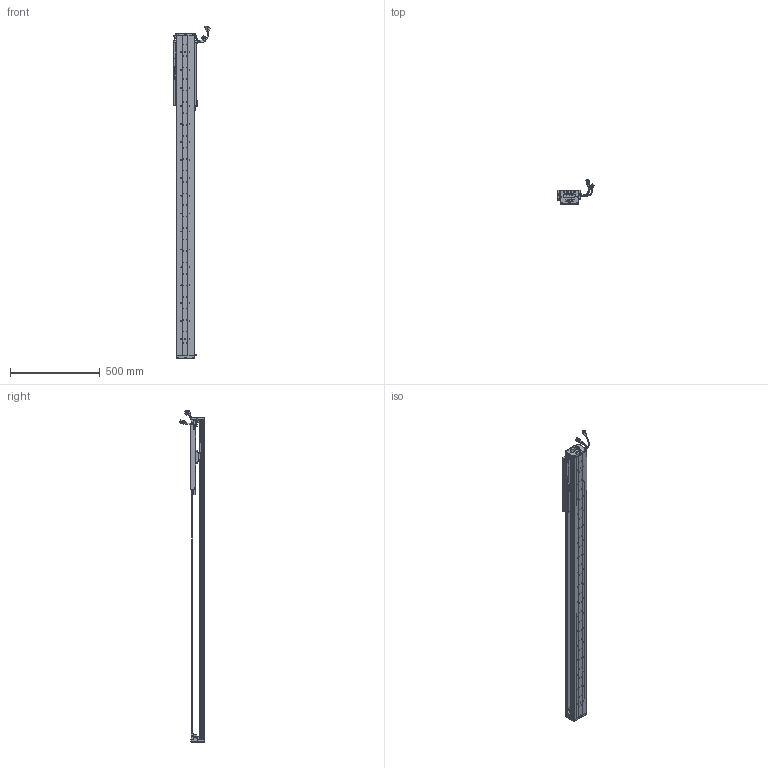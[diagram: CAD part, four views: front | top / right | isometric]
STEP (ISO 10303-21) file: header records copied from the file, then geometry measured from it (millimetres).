
FILE_DESCRIPTION (( 'STEP AP203' ), '1' );
FILE_NAME ('Z5-RY100D-1-L500-B-K.SLDASM_1350.step', '2021-05-17T03:33:26', ( '盈信电脑' ), ( '东莞市道滘镇水果街19号' ), 'SwSTEP 2.0', 'SolidWorks 2016', '' );
FILE_SCHEMA (( 'CONFIG_CONTROL_DESIGN' ));
Length unit declared in the file: millimetre
Products named in the file (36): SCREW-M1.7; Z5-RY100D-1-L500-B-K.SLDASM_1350; SEAL-Part-1; 140雄赽晤鎢ん堤盄; PBU_SHEET; SEAL; SHIELDPLATE; LABEL; Z-RY100D詩湍狟揤裔; PSLH080_PSLF2; 140蚥薯蝶輸; SCREW-M1.6-1; Z5-RY100D-500-倰第菁釱_1350; Z5-RY100-L500詩湍90mm遵_1350; 覜茼ん672; SCREW-M1.7-1; Z-RY100D覜茼んえ; HARNESS-Part-1; 080黍杅芛假蚾釱21遴; COVER-Part-1; SCREW-M1.6; COVER; HARNESS; Z-RY100D詩湍奻揤裔; SCALE-Part-1; HOLDER0; LABEL-Part-1; 榋妏寠巭燃_暯_M2_2; 100-Z-臏賑輸盄裔(21遴); HARNESS-Part-2; Z-100詩湍傷裔啣; SCREW-M1.6-3; SCREW-M1.6-2; SCALE; Z5-RY100铝滑块（21款）; SCALE-Part-2
Assembly tree (43 placements, depth 4):
  Z5-RY100D-1-L500-B-K.SLDASM_1350
    Z5-RY100D-500-倰第菁釱_1350
    Z5-RY100铝滑块（21款）
    PSLH080_PSLF2
      SCALE
        SCALE-Part-1
        SCALE-Part-2
      HARNESS
        HARNESS-Part-1
        HARNESS-Part-2
      LABEL
        LABEL-Part-1
      COVER
        COVER-Part-1
      SEAL
        SEAL-Part-1
      榋妏寠巭燃_暯_M2_2
      SHIELDPLATE
      SCREW-M1.7
      SCREW-M1.7-1
      PBU_SHEET
      SCREW-M1.6
      SCREW-M1.6-1
      SCREW-M1.6-2
      SCREW-M1.6-3
      HOLDER0
    080黍杅芛假蚾釱21遴
    Z-100詩湍傷裔啣  x2
    140蚥薯蝶輸  x2
    覜茼ん672  x3
    Z-RY100D覜茼んえ  x3
    100-Z-臏賑輸盄裔(21遴)
    140雄赽晤鎢ん堤盄
    Z5-RY100-L500詩湍90mm遵_1350
    Z-RY100D詩湍狟揤裔  x2
    Z-RY100D詩湍奻揤裔  x2
Bounding box: 205.83 x 136.11 x 1850.43 mm (x, y, z)
Volume: 3790329.3 mm3; surface area: 1440389.4 mm2
Topology: 38 solids, 38 shells, 2779 faces, 7429 edges, 4720 vertices
Faces by surface type: cylinder 1282, plane 1149, cone 226, torus 69, bspline 53
Entity records: 77867 total; most frequent: CARTESIAN_POINT 16343, DIRECTION 12451, ORIENTED_EDGE 11738, EDGE_CURVE 5869, AXIS2_PLACEMENT_3D 4632, VERTEX_POINT 3788, LINE 3187, VECTOR 3187
